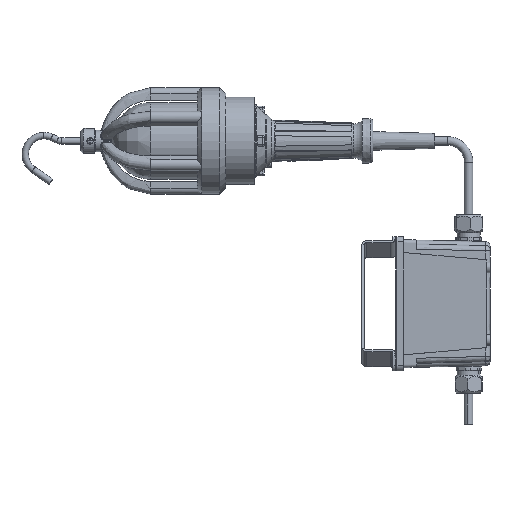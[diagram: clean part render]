
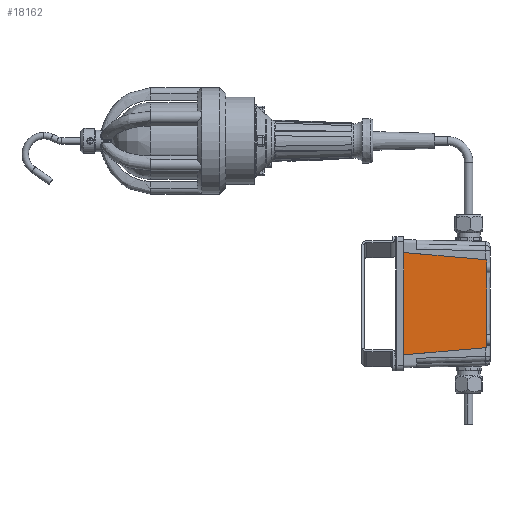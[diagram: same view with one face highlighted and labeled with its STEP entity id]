
A CAD part, left-side view. The second image highlights one B-rep face of the part: STEP entity #18162.
In plain terms, the highlighted planar face has unit normal (-1, 0, 0).
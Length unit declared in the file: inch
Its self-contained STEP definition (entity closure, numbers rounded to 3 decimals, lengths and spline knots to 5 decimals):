
#320 = VERTEX_POINT ( 'NONE', #8900 ) ;
#504 = DIRECTION ( 'NONE',  ( -1., 0., 0. ) ) ;
#1105 = DIRECTION ( 'NONE',  ( 0., 0., 1. ) ) ;
#1127 = CARTESIAN_POINT ( 'NONE',  ( -3., -3.887, 2.06 ) ) ;
#1515 = CARTESIAN_POINT ( 'NONE',  ( -3., -3.887, -2.06 ) ) ;
#2397 = EDGE_CURVE ( 'NONE', #8408, #17456, #10408, .T. ) ;
#2448 = VERTEX_POINT ( 'NONE', #12252 ) ;
#3106 = ORIENTED_EDGE ( 'NONE', *, *, #20044, .F. ) ;
#3397 = DIRECTION ( 'NONE',  ( 0., 0., -1. ) ) ;
#3702 = CARTESIAN_POINT ( 'NONE',  ( -3., -3.887, -2.06 ) ) ;
#3954 = ORIENTED_EDGE ( 'NONE', *, *, #19797, .F. ) ;
#3992 = CARTESIAN_POINT ( 'NONE',  ( -3., 0., 0. ) ) ;
#4605 = VECTOR ( 'NONE', #10770, 39.37008 ) ;
#4678 = DIRECTION ( 'NONE',  ( 0., -0.996, -0.087 ) ) ;
#4740 = EDGE_CURVE ( 'NONE', #320, #15428, #14352, .T. ) ;
#4979 = VECTOR ( 'NONE', #19801, 39.37008 ) ;
#5021 = LINE ( 'NONE', #11668, #14389 ) ;
#5174 = LINE ( 'NONE', #1127, #14543 ) ;
#5466 = ORIENTED_EDGE ( 'NONE', *, *, #8633, .F. ) ;
#5628 = CARTESIAN_POINT ( 'NONE',  ( -3., 0., 2.4 ) ) ;
#6043 = AXIS2_PLACEMENT_3D ( 'NONE', #3992, #504, #12839 ) ;
#6092 = VERTEX_POINT ( 'NONE', #22834 ) ;
#6693 = CARTESIAN_POINT ( 'NONE',  ( -3., -3.887, -1.448 ) ) ;
#7057 = CARTESIAN_POINT ( 'NONE',  ( -3., -3.887, -2.06 ) ) ;
#7497 = CARTESIAN_POINT ( 'NONE',  ( -3., -3.887, 1.948 ) ) ;
#7509 = PLANE ( 'NONE',  #6043 ) ;
#7745 = EDGE_CURVE ( 'NONE', #15727, #8408, #5174, .T. ) ;
#8408 = VERTEX_POINT ( 'NONE', #15543 ) ;
#8633 = EDGE_CURVE ( 'NONE', #17456, #320, #9243, .T. ) ;
#8900 = CARTESIAN_POINT ( 'NONE',  ( -3., -3.887, 1.448 ) ) ;
#9243 = LINE ( 'NONE', #3702, #4605 ) ;
#9321 = CARTESIAN_POINT ( 'NONE',  ( -3., -3.887, -2.06 ) ) ;
#9682 = ORIENTED_EDGE ( 'NONE', *, *, #2397, .F. ) ;
#9874 = VECTOR ( 'NONE', #21161, 39.37008 ) ;
#10408 = LINE ( 'NONE', #7057, #9874 ) ;
#10508 = LINE ( 'NONE', #21998, #19882 ) ;
#10770 = DIRECTION ( 'NONE',  ( 0., 0., -1. ) ) ;
#11668 = CARTESIAN_POINT ( 'NONE',  ( -3., 0., 2.4 ) ) ;
#12128 = VECTOR ( 'NONE', #13009, 39.37008 ) ;
#12252 = CARTESIAN_POINT ( 'NONE',  ( -3., -3.887, -2.06 ) ) ;
#12692 = LINE ( 'NONE', #21766, #12128 ) ;
#12730 = FACE_OUTER_BOUND ( 'NONE', #22490, .T. ) ;
#12839 = DIRECTION ( 'NONE',  ( 0., 0., 1. ) ) ;
#13009 = DIRECTION ( 'NONE',  ( 0., 0.996, -0.087 ) ) ;
#14352 = LINE ( 'NONE', #9321, #4979 ) ;
#14389 = VECTOR ( 'NONE', #1105, 39.37008 ) ;
#14543 = VECTOR ( 'NONE', #4678, 39.37008 ) ;
#14801 = VERTEX_POINT ( 'NONE', #15147 ) ;
#15020 = ORIENTED_EDGE ( 'NONE', *, *, #4740, .F. ) ;
#15147 = CARTESIAN_POINT ( 'NONE',  ( -3., -3.887, -1.948 ) ) ;
#15428 = VERTEX_POINT ( 'NONE', #6693 ) ;
#15520 = EDGE_CURVE ( 'NONE', #14801, #2448, #21425, .T. ) ;
#15543 = CARTESIAN_POINT ( 'NONE',  ( -3., -3.887, 2.06 ) ) ;
#15727 = VERTEX_POINT ( 'NONE', #5628 ) ;
#16265 = ORIENTED_EDGE ( 'NONE', *, *, #18354, .F. ) ;
#16769 = VECTOR ( 'NONE', #3397, 39.37008 ) ;
#17456 = VERTEX_POINT ( 'NONE', #7497 ) ;
#18162 = ADVANCED_FACE ( 'NONE', ( #12730 ), #7509, .T. ) ;
#18354 = EDGE_CURVE ( 'NONE', #15428, #14801, #10508, .T. ) ;
#18534 = DIRECTION ( 'NONE',  ( 0., 0., -1. ) ) ;
#18750 = ORIENTED_EDGE ( 'NONE', *, *, #7745, .F. ) ;
#19797 = EDGE_CURVE ( 'NONE', #2448, #6092, #12692, .T. ) ;
#19801 = DIRECTION ( 'NONE',  ( 0., 0., -1. ) ) ;
#19882 = VECTOR ( 'NONE', #18534, 39.37008 ) ;
#20044 = EDGE_CURVE ( 'NONE', #6092, #15727, #5021, .T. ) ;
#20572 = ORIENTED_EDGE ( 'NONE', *, *, #15520, .F. ) ;
#21161 = DIRECTION ( 'NONE',  ( 0., 0., -1. ) ) ;
#21425 = LINE ( 'NONE', #1515, #16769 ) ;
#21766 = CARTESIAN_POINT ( 'NONE',  ( -3., -3.887, -2.06 ) ) ;
#21998 = CARTESIAN_POINT ( 'NONE',  ( -3., -3.887, -2.06 ) ) ;
#22490 = EDGE_LOOP ( 'NONE', ( #18750, #3106, #3954, #20572, #16265, #15020, #5466, #9682 ) ) ;
#22834 = CARTESIAN_POINT ( 'NONE',  ( -3., 0., -2.4 ) ) ;
